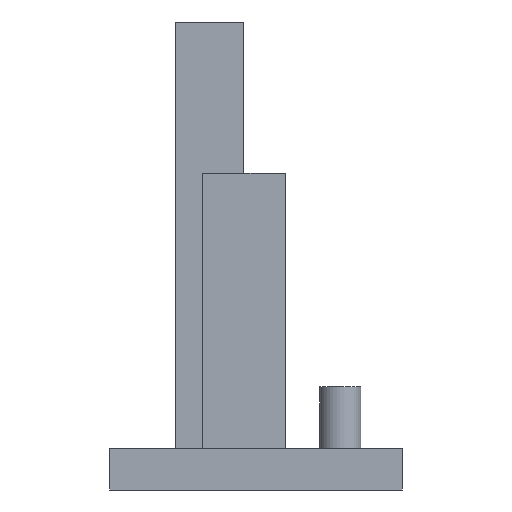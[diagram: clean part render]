
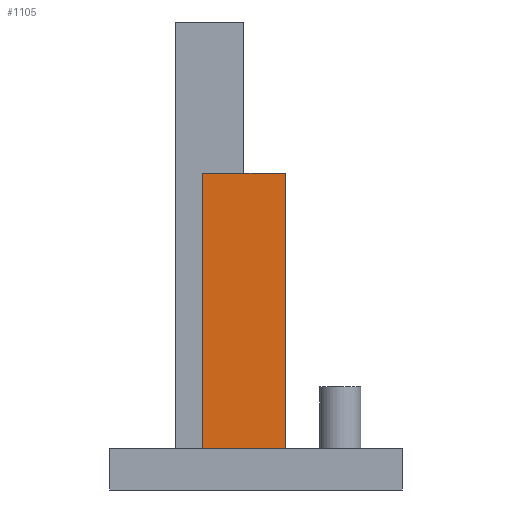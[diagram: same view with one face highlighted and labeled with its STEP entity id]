
A CAD part, left-side view. The second image highlights one B-rep face of the part: STEP entity #1105.
In plain terms, the highlighted planar face has unit normal (-1, 0, 0).
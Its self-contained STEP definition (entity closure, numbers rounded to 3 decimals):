
#32 = PLANE('',#33);
#33 = AXIS2_PLACEMENT_3D('',#34,#35,#36);
#34 = CARTESIAN_POINT('',(-56.,-75.,6.));
#35 = DIRECTION('',(0.,0.,1.));
#36 = DIRECTION('',(1.,0.,0.));
#238 = VERTEX_POINT('',#239);
#239 = CARTESIAN_POINT('',(-4.5,-46.162,6.));
#319 = VERTEX_POINT('',#320);
#320 = CARTESIAN_POINT('',(-4.5,-58.,6.));
#334 = PLANE('',#335);
#335 = AXIS2_PLACEMENT_3D('',#336,#337,#338);
#336 = CARTESIAN_POINT('',(-4.5,-58.,6.));
#337 = DIRECTION('',(0.,1.,0.));
#338 = DIRECTION('',(0.,0.,1.));
#346 = EDGE_CURVE('',#319,#238,#347,.T.);
#347 = SURFACE_CURVE('',#348,(#352,#359),.PCURVE_S1.);
#348 = LINE('',#349,#350);
#349 = CARTESIAN_POINT('',(-4.5,-58.,6.));
#350 = VECTOR('',#351,1.);
#351 = DIRECTION('',(0.,1.,0.));
#352 = PCURVE('',#32,#353);
#353 = DEFINITIONAL_REPRESENTATION('',(#354),#358);
#354 = LINE('',#355,#356);
#355 = CARTESIAN_POINT('',(51.5,17.));
#356 = VECTOR('',#357,1.);
#357 = DIRECTION('',(0.,1.));
#358 = ( GEOMETRIC_REPRESENTATION_CONTEXT(2) 
PARAMETRIC_REPRESENTATION_CONTEXT() REPRESENTATION_CONTEXT('2D SPACE',''
  ) );
#359 = PCURVE('',#360,#365);
#360 = PLANE('',#361);
#361 = AXIS2_PLACEMENT_3D('',#362,#363,#364);
#362 = CARTESIAN_POINT('',(-4.5,-58.,6.));
#363 = DIRECTION('',(1.,0.,0.));
#364 = DIRECTION('',(0.,0.,1.));
#365 = DEFINITIONAL_REPRESENTATION('',(#366),#370);
#366 = LINE('',#367,#368);
#367 = CARTESIAN_POINT('',(0.,0.));
#368 = VECTOR('',#369,1.);
#369 = DIRECTION('',(0.,-1.));
#370 = ( GEOMETRIC_REPRESENTATION_CONTEXT(2) 
PARAMETRIC_REPRESENTATION_CONTEXT() REPRESENTATION_CONTEXT('2D SPACE',''
  ) );
#1092 = PLANE('',#1093);
#1093 = AXIS2_PLACEMENT_3D('',#1094,#1095,#1096);
#1094 = CARTESIAN_POINT('',(-4.5,-58.,6.));
#1095 = DIRECTION('',(0.,0.,1.));
#1096 = DIRECTION('',(1.,0.,0.));
#1105 = ADVANCED_FACE('',(#1106),#360,.F.);
#1106 = FACE_BOUND('',#1107,.F.);
#1107 = EDGE_LOOP('',(#1108,#1131,#1132,#1155,#1183));
#1108 = ORIENTED_EDGE('',*,*,#1109,.F.);
#1109 = EDGE_CURVE('',#319,#1110,#1112,.T.);
#1110 = VERTEX_POINT('',#1111);
#1111 = CARTESIAN_POINT('',(-4.5,-58.,46.));
#1112 = SURFACE_CURVE('',#1113,(#1117,#1124),.PCURVE_S1.);
#1113 = LINE('',#1114,#1115);
#1114 = CARTESIAN_POINT('',(-4.5,-58.,6.));
#1115 = VECTOR('',#1116,1.);
#1116 = DIRECTION('',(0.,0.,1.));
#1117 = PCURVE('',#360,#1118);
#1118 = DEFINITIONAL_REPRESENTATION('',(#1119),#1123);
#1119 = LINE('',#1120,#1121);
#1120 = CARTESIAN_POINT('',(0.,0.));
#1121 = VECTOR('',#1122,1.);
#1122 = DIRECTION('',(1.,0.));
#1123 = ( GEOMETRIC_REPRESENTATION_CONTEXT(2) 
PARAMETRIC_REPRESENTATION_CONTEXT() REPRESENTATION_CONTEXT('2D SPACE',''
  ) );
#1124 = PCURVE('',#334,#1125);
#1125 = DEFINITIONAL_REPRESENTATION('',(#1126),#1130);
#1126 = LINE('',#1127,#1128);
#1127 = CARTESIAN_POINT('',(0.,0.));
#1128 = VECTOR('',#1129,1.);
#1129 = DIRECTION('',(1.,0.));
#1130 = ( GEOMETRIC_REPRESENTATION_CONTEXT(2) 
PARAMETRIC_REPRESENTATION_CONTEXT() REPRESENTATION_CONTEXT('2D SPACE',''
  ) );
#1131 = ORIENTED_EDGE('',*,*,#346,.T.);
#1132 = ORIENTED_EDGE('',*,*,#1133,.T.);
#1133 = EDGE_CURVE('',#238,#1134,#1136,.T.);
#1134 = VERTEX_POINT('',#1135);
#1135 = CARTESIAN_POINT('',(-4.5,-46.,6.));
#1136 = SURFACE_CURVE('',#1137,(#1141,#1148),.PCURVE_S1.);
#1137 = LINE('',#1138,#1139);
#1138 = CARTESIAN_POINT('',(-4.5,-58.,6.));
#1139 = VECTOR('',#1140,1.);
#1140 = DIRECTION('',(0.,1.,0.));
#1141 = PCURVE('',#360,#1142);
#1142 = DEFINITIONAL_REPRESENTATION('',(#1143),#1147);
#1143 = LINE('',#1144,#1145);
#1144 = CARTESIAN_POINT('',(0.,0.));
#1145 = VECTOR('',#1146,1.);
#1146 = DIRECTION('',(0.,-1.));
#1147 = ( GEOMETRIC_REPRESENTATION_CONTEXT(2) 
PARAMETRIC_REPRESENTATION_CONTEXT() REPRESENTATION_CONTEXT('2D SPACE',''
  ) );
#1148 = PCURVE('',#1092,#1149);
#1149 = DEFINITIONAL_REPRESENTATION('',(#1150),#1154);
#1150 = LINE('',#1151,#1152);
#1151 = CARTESIAN_POINT('',(0.,0.));
#1152 = VECTOR('',#1153,1.);
#1153 = DIRECTION('',(0.,1.));
#1154 = ( GEOMETRIC_REPRESENTATION_CONTEXT(2) 
PARAMETRIC_REPRESENTATION_CONTEXT() REPRESENTATION_CONTEXT('2D SPACE',''
  ) );
#1155 = ORIENTED_EDGE('',*,*,#1156,.T.);
#1156 = EDGE_CURVE('',#1134,#1157,#1159,.T.);
#1157 = VERTEX_POINT('',#1158);
#1158 = CARTESIAN_POINT('',(-4.5,-46.,46.));
#1159 = SURFACE_CURVE('',#1160,(#1164,#1171),.PCURVE_S1.);
#1160 = LINE('',#1161,#1162);
#1161 = CARTESIAN_POINT('',(-4.5,-46.,6.));
#1162 = VECTOR('',#1163,1.);
#1163 = DIRECTION('',(0.,0.,1.));
#1164 = PCURVE('',#360,#1165);
#1165 = DEFINITIONAL_REPRESENTATION('',(#1166),#1170);
#1166 = LINE('',#1167,#1168);
#1167 = CARTESIAN_POINT('',(0.,-12.));
#1168 = VECTOR('',#1169,1.);
#1169 = DIRECTION('',(1.,0.));
#1170 = ( GEOMETRIC_REPRESENTATION_CONTEXT(2) 
PARAMETRIC_REPRESENTATION_CONTEXT() REPRESENTATION_CONTEXT('2D SPACE',''
  ) );
#1171 = PCURVE('',#1172,#1177);
#1172 = PLANE('',#1173);
#1173 = AXIS2_PLACEMENT_3D('',#1174,#1175,#1176);
#1174 = CARTESIAN_POINT('',(-4.5,-46.,6.));
#1175 = DIRECTION('',(0.,1.,0.));
#1176 = DIRECTION('',(0.,0.,1.));
#1177 = DEFINITIONAL_REPRESENTATION('',(#1178),#1182);
#1178 = LINE('',#1179,#1180);
#1179 = CARTESIAN_POINT('',(0.,0.));
#1180 = VECTOR('',#1181,1.);
#1181 = DIRECTION('',(1.,0.));
#1182 = ( GEOMETRIC_REPRESENTATION_CONTEXT(2) 
PARAMETRIC_REPRESENTATION_CONTEXT() REPRESENTATION_CONTEXT('2D SPACE',''
  ) );
#1183 = ORIENTED_EDGE('',*,*,#1184,.F.);
#1184 = EDGE_CURVE('',#1110,#1157,#1185,.T.);
#1185 = SURFACE_CURVE('',#1186,(#1190,#1197),.PCURVE_S1.);
#1186 = LINE('',#1187,#1188);
#1187 = CARTESIAN_POINT('',(-4.5,-58.,46.));
#1188 = VECTOR('',#1189,1.);
#1189 = DIRECTION('',(0.,1.,0.));
#1190 = PCURVE('',#360,#1191);
#1191 = DEFINITIONAL_REPRESENTATION('',(#1192),#1196);
#1192 = LINE('',#1193,#1194);
#1193 = CARTESIAN_POINT('',(40.,0.));
#1194 = VECTOR('',#1195,1.);
#1195 = DIRECTION('',(0.,-1.));
#1196 = ( GEOMETRIC_REPRESENTATION_CONTEXT(2) 
PARAMETRIC_REPRESENTATION_CONTEXT() REPRESENTATION_CONTEXT('2D SPACE',''
  ) );
#1197 = PCURVE('',#1198,#1203);
#1198 = PLANE('',#1199);
#1199 = AXIS2_PLACEMENT_3D('',#1200,#1201,#1202);
#1200 = CARTESIAN_POINT('',(-4.5,-58.,46.));
#1201 = DIRECTION('',(0.,0.,1.));
#1202 = DIRECTION('',(1.,0.,0.));
#1203 = DEFINITIONAL_REPRESENTATION('',(#1204),#1208);
#1204 = LINE('',#1205,#1206);
#1205 = CARTESIAN_POINT('',(0.,0.));
#1206 = VECTOR('',#1207,1.);
#1207 = DIRECTION('',(0.,1.));
#1208 = ( GEOMETRIC_REPRESENTATION_CONTEXT(2) 
PARAMETRIC_REPRESENTATION_CONTEXT() REPRESENTATION_CONTEXT('2D SPACE',''
  ) );
